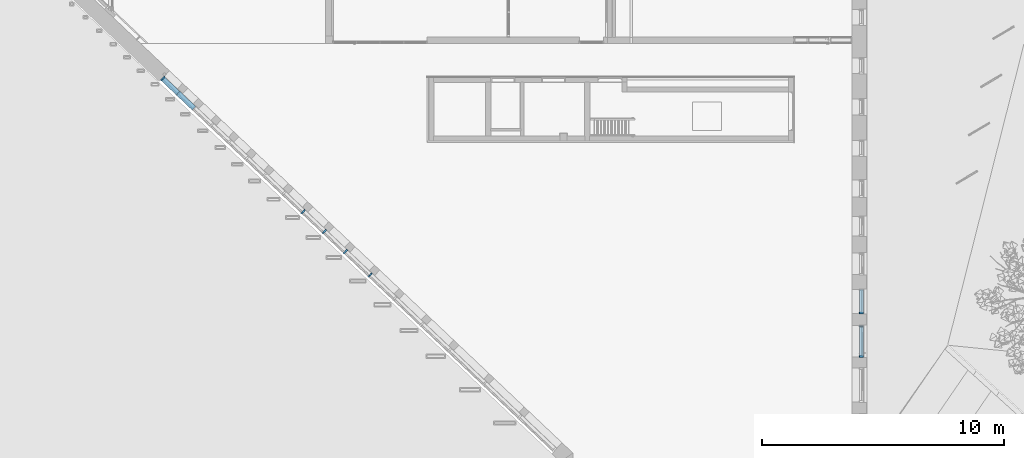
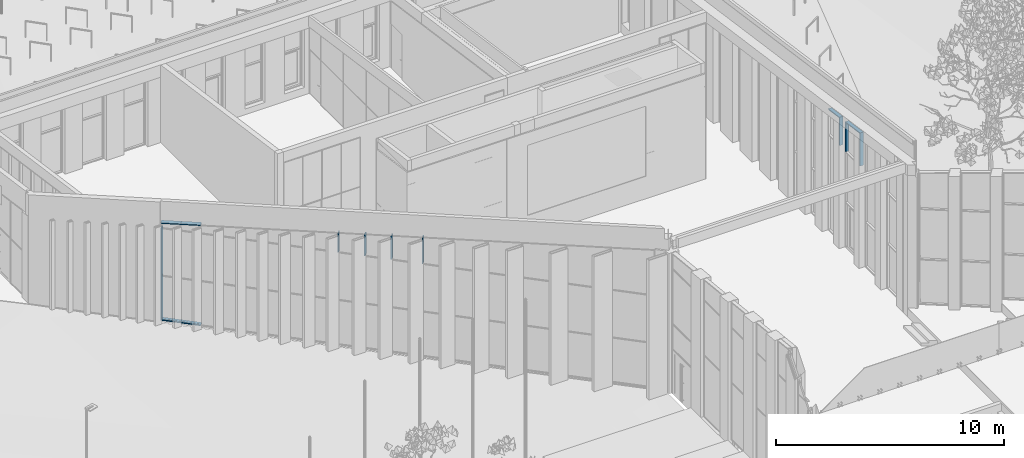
# One storey, part 64 of 246: 15 members, 3 elements without a shape of their own.
"""IFC2X3 building model written with IfcOpenShell, lengths in millimetres."""

from ifc_helpers import new_model, entity, si_unit, converted_unit, derived_unit, money_unit, direction, frame, origin_with_axes, place, context, subcontext, project, spatial, faceted_brep, material, type_object, element, aggregate, save


model = new_model("IFC2X3")

# Units and contexts
model_context = context("Model", 3, precision=0.01, world=origin_with_axes(), true_north=direction((0.0, 1.0)))
body_context = subcontext(model_context, "Body", "Model", "MODEL_VIEW")
ifc_project = project(units=[si_unit("LENGTHUNIT", "METRE", prefix="MILLI"), si_unit("AREAUNIT", "SQUARE_METRE"), si_unit("VOLUMEUNIT", "CUBIC_METRE"), converted_unit("PLANEANGLEUNIT", "DEGREE", entity("IfcPlaneAngleMeasure", 0.0174532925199), si_unit("PLANEANGLEUNIT", "RADIAN"), dimensions=[0, 0, 0, 0, 0, 0, 0]), si_unit("SOLIDANGLEUNIT", "STERADIAN"), money_unit("EUR"), converted_unit("TIMEUNIT", "Year", entity("IfcTimeMeasure", 31556926.0), si_unit("TIMEUNIT", "SECOND"), dimensions=[0, 0, 1, 0, 0, 0, 0]), si_unit("MASSUNIT", "GRAM", prefix="KILO"), si_unit("THERMODYNAMICTEMPERATUREUNIT", "DEGREE_CELSIUS"), si_unit("LUMINOUSINTENSITYUNIT", "LUMEN"), si_unit("ENERGYUNIT", "JOULE", prefix="MEGA"), derived_unit("THERMALCONDUCTANCEUNIT", [(si_unit("POWERUNIT", "WATT"), 1), (si_unit("LENGTHUNIT", "METRE"), -1), (si_unit("THERMODYNAMICTEMPERATUREUNIT", "KELVIN"), -1)]), derived_unit("SPECIFICHEATCAPACITYUNIT", [(si_unit("ENERGYUNIT", "JOULE"), 1), (si_unit("MASSUNIT", "GRAM", prefix="KILO"), -1), (si_unit("THERMODYNAMICTEMPERATUREUNIT", "KELVIN"), -1)]), derived_unit("MASSDENSITYUNIT", [(si_unit("MASSUNIT", "GRAM", prefix="KILO"), 1), (si_unit("VOLUMEUNIT", "CUBIC_METRE"), -1)])], contexts=[model_context])

# Site, building, storey
site_placement = place(None, origin_with_axes())
site = spatial("IfcSite", under=ifc_project, at=site_placement, Name="L.Koidula tn 11b", CompositionType="ELEMENT")
building_placement = place(site_placement, origin_with_axes())
building = spatial("IfcBuilding", under=site, at=building_placement, Name="Rakvere Riigigümnaasium", CompositionType="ELEMENT")
storey_placement = place(building_placement, origin_with_axes())
storey = spatial("IfcBuildingStorey", under=building, at=storey_placement, Name="1.korrus 0,00", CompositionType="ELEMENT", Elevation=0.0)

# Curtain wall, members
curtain_wall_type = type_object("IfcCurtainWallType", Name="Curtain Wall Type", PredefinedType="NOTDEFINED")
curtain_wall_1_placement = place(storey_placement, frame((47434.0004775, 49050.4555635, 0.0), z_axis=(0.0, 0.0, 1.0), x_axis=(1.0, 0.0, 0.0)))
curtain_wall_1 = element("IfcCurtainWall", 1, at=curtain_wall_1_placement, inside=storey, type_object=curtain_wall_type, Name="KLF-07-03")
ifc_material = material(Name="Alumiiniumprofiil (RAL 7021)")
member_type_1 = type_object("IfcMemberType", Name="Boundary Frame 50 x 170", PredefinedType="MULLION")
member_1_placement = place(curtain_wall_1_placement, frame((0.0, -649.999925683, 5100.0), z_axis=(0.0, 0.0, 1.0), x_axis=(0.0, 1.0, 0.0)))
member_1 = element("IfcMember", 2, at=member_1_placement, type_object=member_type_1, material=ifc_material, Name="KLF-07-73-Profiilid", ObjectType="MULLION", context=body_context, shape_type="Brep", body=[
    faceted_brep([(37.0, 26.0, 1734.39790006), (50.0, 26.0, 1719.41595005), (50.0, 124.0, 1719.41595005), (0.0, 124.0, 1777.0388347), (0.0, -46.0, 1777.0388347), (50.0, -46.0, 1719.41595005), (50.0, -26.0, 1719.41595005), (37.0, -26.0, 1734.39790006), (37.0, 26.0, -3.14933856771e-07), (50.0, 26.0, -3.14933856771e-07), (50.0, 124.0, -3.14933856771e-07), (0.0, 124.0, -3.14933856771e-07), (0.0, -46.0, -3.14933856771e-07), (50.0, -46.0, -3.14933856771e-07), (50.0, -26.0, -3.14933856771e-07), (37.0, -26.0, -3.14933856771e-07)], [[[0, 1, 2, 3, 4, 5, 6, 7]], [[0, 8, 9, 1]], [[9, 10, 2, 1]], [[10, 11, 3, 2]], [[11, 12, 4, 3]], [[12, 13, 5, 4]], [[6, 5, 13, 14]], [[14, 15, 7, 6]], [[7, 15, 8, 0]], [[8, 15, 14, 13, 12, 11, 10, 9]]]),
])
member_2_placement = place(curtain_wall_1_placement, frame((0.0, 649.999913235, 6691.9533848), z_axis=(0.0, 1.85023604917e-08, -1.0), x_axis=(0.0, -1.0, -1.85023604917e-08)))
member_2 = element("IfcMember", 3, at=member_2_placement, type_object=member_type_1, material=ifc_material, Name="KLF-07-75-Profiilid", ObjectType="MULLION", context=body_context, shape_type="Brep", body=[
    faceted_brep([(37.0000294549, 26.0, 1591.95338458), (50.0000294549, 26.0, 1591.95338434), (50.0000294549, 124.0, 1591.95338434), (2.94548954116e-05, 124.0, 1591.95338526), (2.94548954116e-05, -46.0, 1591.95338526), (50.0000294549, -46.0, 1591.95338434), (50.0000294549, -26.0, 1591.95338434), (37.0000294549, -26.0, 1591.95338458), (37.000000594, 26.0, 32.1052987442), (50.0000008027, 26.0, 43.3855388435), (50.0000008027, 124.0, 43.3855388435), (0.0, 124.0, 0.0), (0.0, -46.0, 0.0), (50.0000008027, -46.0, 43.3855388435), (50.0000008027, -26.0, 43.3855388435), (37.000000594, -26.0, 32.1052987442)], [[[0, 1, 2, 3, 4, 5, 6, 7]], [[0, 8, 9, 1]], [[9, 10, 2, 1]], [[2, 10, 11, 3]], [[3, 11, 12, 4]], [[4, 12, 13, 5]], [[6, 5, 13, 14]], [[14, 15, 7, 6]], [[7, 15, 8, 0]], [[8, 15, 14, 13, 12, 11, 10, 9]]]),
])
member_3_placement = place(curtain_wall_1_placement, frame((0.0, -649.999925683, 6877.0388347), z_axis=(0.0, 0.990016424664, -0.140952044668), x_axis=(0.0, -0.140952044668, -0.990016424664)))
member_3 = element("IfcMember", 4, at=member_3_placement, type_object=member_type_1, material=ifc_material, Name="KLF-07-74-Profiilid", ObjectType="MULLION", context=body_context, shape_type="Brep", body=[
    faceted_brep([(37.0, 26.0, 1281.00406576), (50.0, 26.0, 1269.72382542), (50.0, 124.0, 1269.72382542), (0.0, 124.0, 1313.10936519), (0.0, -46.0, 1313.10936519), (50.0, -46.0, 1269.72382542), (50.0, -26.0, 1269.72382542), (37.0, -26.0, 1281.00406576), (37.0, 26.0, 42.6409346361), (50.0, 26.0, 57.6228846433), (50.0, 124.0, 57.6228846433), (0.0, 124.0, 0.0), (0.0, -46.0, 0.0), (50.0, -46.0, 57.6228846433), (50.0, -26.0, 57.6228846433), (37.0, -26.0, 42.6409346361)], [[[0, 1, 2, 3, 4, 5, 6, 7]], [[0, 8, 9, 1]], [[9, 10, 2, 1]], [[2, 10, 11, 3]], [[3, 11, 12, 4]], [[4, 12, 13, 5]], [[6, 5, 13, 14]], [[14, 15, 7, 6]], [[7, 15, 8, 0]], [[8, 15, 14, 13, 12, 11, 10, 9]]]),
])
aggregate(curtain_wall_1, [member_1, member_2, member_3])

curtain_wall_2_placement = place(storey_placement, frame((47434.0004775, 50700.4459651, -5.70142248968e-05), z_axis=(0.0, 0.0, 1.0), x_axis=(1.0, 0.0, 0.0)))
curtain_wall_2 = element("IfcCurtainWall", 5, at=curtain_wall_2_placement, inside=storey, type_object=curtain_wall_type, Name="KLF-07-04")
member_4_placement = place(curtain_wall_2_placement, frame((0.0, -499.999990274, 5100.00005701), z_axis=(0.0, 0.0, 1.0), x_axis=(0.0, 1.0, 0.0)))
member_4 = element("IfcMember", 6, at=member_4_placement, type_object=member_type_1, material=ifc_material, Name="KLF-07-89-Profiilid", ObjectType="MULLION", context=body_context, shape_type="Brep", body=[
    faceted_brep([(37.0, 26.0, 1478.12710521), (50.0, 26.0, 1463.14515406), (50.0, 124.0, 1463.14515406), (0.0, 124.0, 1520.76804312), (0.0, -46.0, 1520.76804312), (50.0, -46.0, 1463.14515406), (50.0, -26.0, 1463.14515406), (37.0, -26.0, 1478.12710521), (37.0, 26.0, -1.15044063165e-06), (50.0, 26.0, -1.15044063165e-06), (50.0, 124.0, -1.15044063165e-06), (0.0, 124.0, -1.15044063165e-06), (0.0, -46.0, -1.15044063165e-06), (50.0, -46.0, -1.15044063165e-06), (50.0, -26.0, -1.15044063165e-06), (37.0, -26.0, -1.15044063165e-06)], [[[0, 1, 2, 3, 4, 5, 6, 7]], [[0, 8, 9, 1]], [[9, 10, 2, 1]], [[10, 11, 3, 2]], [[11, 12, 4, 3]], [[12, 13, 5, 4]], [[6, 5, 13, 14]], [[14, 15, 7, 6]], [[7, 15, 8, 0]], [[8, 15, 14, 13, 12, 11, 10, 9]]]),
])
member_5_placement = place(curtain_wall_2_placement, frame((0.0, -499.999990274, 6620.76810014), z_axis=(0.0, 0.990016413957, -0.140952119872), x_axis=(0.0, -0.140952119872, -0.990016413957)))
member_5 = element("IfcMember", 7, at=member_5_placement, type_object=member_type_1, material=ifc_material, Name="KLF-07-90-Profiilid", ObjectType="MULLION", context=body_context, shape_type="Brep", body=[
    faceted_brep([(37.0, 26.0, 977.978945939), (50.0, 26.0, 966.698706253), (50.0, 124.0, 966.698706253), (0.0, 124.0, 1010.0842435), (0.0, -46.0, 1010.0842435), (50.0, -46.0, 966.698706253), (50.0, -26.0, 966.698706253), (37.0, -26.0, 977.978945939), (37.0, 26.0, 42.6409379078), (50.0, 26.0, 57.6228890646), (50.0, 124.0, 57.6228890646), (0.0, 124.0, 0.0), (0.0, -46.0, 0.0), (50.0, -46.0, 57.6228890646), (50.0, -26.0, 57.6228890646), (37.0, -26.0, 42.6409379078)], [[[0, 1, 2, 3, 4, 5, 6, 7]], [[0, 8, 9, 1]], [[9, 10, 2, 1]], [[2, 10, 11, 3]], [[3, 11, 12, 4]], [[4, 12, 13, 5]], [[6, 5, 13, 14]], [[14, 15, 7, 6]], [[7, 15, 8, 0]], [[8, 15, 14, 13, 12, 11, 10, 9]]]),
])
aggregate(curtain_wall_2, [member_4, member_5])

curtain_wall_3_placement = place(storey_placement, frame((33997.0353268, 45217.6604975, 0.0), z_axis=(0.0, 0.0, 1.0), x_axis=(1.0, 0.0, 0.0)))
curtain_wall_3 = element("IfcCurtainWall", 8, at=curtain_wall_3_placement, inside=storey, type_object=curtain_wall_type, Name="KLF-02")
member_type_2 = type_object("IfcMemberType", Name="Mullion Frame 50 x 210", PredefinedType="MULLION")
member_6_placement = place(curtain_wall_3_placement, frame((-6896.6221772, 6533.498492, 4950.00031279), z_axis=(0.0, 0.0, 1.0), x_axis=(0.725960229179, -0.687736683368, 0.0)))
member_6 = element("IfcMember", 9, at=member_6_placement, type_object=member_type_2, material=ifc_material, Name="KLF-50-Profiilid", ObjectType="MULLION", context=body_context, shape_type="Brep", body=[
    faceted_brep([(-12.0, 26.0, 1392.65956347), (-12.0, -26.0, 1392.65956347), (-25.0, -26.0, 1391.37779045), (-25.0, -56.0, 1391.37779045), (25.0, -56.0, 1396.30768667), (25.0, -26.0, 1396.30768667), (12.0, -26.0, 1395.02591366), (12.0, 26.0, 1395.02591366), (25.0, 26.0, 1396.30768667), (25.0, 154.0, 1396.30768667), (-25.0, 154.0, 1391.37779045), (-25.0, 26.0, 1391.37779045), (-12.0, 26.0, 0.0), (-12.0, -26.0, 0.0), (-25.0, -26.0, 0.0), (-25.0, -56.0, 0.0), (25.0, -56.0, 0.0), (25.0, -26.0, 0.0), (12.0, -26.0, 0.0), (12.0, 26.0, 0.0), (25.0, 26.0, 0.0), (25.0, 154.0, 0.0), (-25.0, 154.0, 0.0), (-25.0, 26.0, 0.0)], [[[0, 1, 2, 3, 4, 5, 6, 7, 8, 9, 10, 11]], [[0, 12, 13, 1]], [[1, 13, 14, 2]], [[14, 15, 3, 2]], [[3, 15, 16, 4]], [[17, 5, 4, 16]], [[5, 17, 18, 6]], [[7, 6, 18, 19]], [[8, 7, 19, 20]], [[8, 20, 21, 9]], [[9, 21, 22, 10]], [[11, 10, 22, 23]], [[11, 23, 12, 0]], [[13, 12, 23, 22, 21, 20, 19, 18, 17, 16, 15, 14]]]),
])
member_7_placement = place(curtain_wall_3_placement, frame((-7912.96649805, 7496.32984872, 4950.00031279), z_axis=(0.0, 0.0, 1.0), x_axis=(0.725960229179, -0.687736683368, 0.0)))
member_7 = element("IfcMember", 10, at=member_7_placement, type_object=member_type_2, material=ifc_material, Name="KLF-51-Profiilid", ObjectType="MULLION", context=body_context, shape_type="Brep", body=[
    faceted_brep([(-12.0, 26.0, 1254.62246929), (-12.0, -26.0, 1254.62246929), (-25.0, -26.0, 1253.34069627), (-25.0, -56.0, 1253.34069627), (25.0, -56.0, 1258.27059249), (25.0, -26.0, 1258.27059249), (12.0, -26.0, 1256.98881948), (12.0, 26.0, 1256.98881948), (25.0, 26.0, 1258.27059249), (25.0, 154.0, 1258.27059249), (-25.0, 154.0, 1253.34069627), (-25.0, 26.0, 1253.34069627), (-12.0, 26.0, 0.0), (-12.0, -26.0, 0.0), (-25.0, -26.0, 0.0), (-25.0, -56.0, 0.0), (25.0, -56.0, 0.0), (25.0, -26.0, 0.0), (12.0, -26.0, 0.0), (12.0, 26.0, 0.0), (25.0, 26.0, 0.0), (25.0, 154.0, 0.0), (-25.0, 154.0, 0.0), (-25.0, 26.0, 0.0)], [[[0, 1, 2, 3, 4, 5, 6, 7, 8, 9, 10, 11]], [[0, 12, 13, 1]], [[1, 13, 14, 2]], [[14, 15, 3, 2]], [[3, 15, 16, 4]], [[17, 5, 4, 16]], [[5, 17, 18, 6]], [[7, 6, 18, 19]], [[8, 7, 19, 20]], [[8, 20, 21, 9]], [[9, 21, 22, 10]], [[11, 10, 22, 23]], [[11, 23, 12, 0]], [[13, 12, 23, 22, 21, 20, 19, 18, 17, 16, 15, 14]]]),
])
member_8_placement = place(curtain_wall_3_placement, frame((-8784.11877306, 8321.61386876, 4950.00031279), z_axis=(0.0, 0.0, 1.0), x_axis=(0.725960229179, -0.687736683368, 0.0)))
member_8 = element("IfcMember", 11, at=member_8_placement, type_object=member_type_2, material=ifc_material, Name="KLF-52-Profiilid", ObjectType="MULLION", context=body_context, shape_type="Brep", body=[
    faceted_brep([(-12.0, 26.0, 1136.30495999), (-12.0, -26.0, 1136.30495999), (-25.0, -26.0, 1135.02318698), (-25.0, -56.0, 1135.02318698), (25.0, -56.0, 1139.9530832), (25.0, -26.0, 1139.9530832), (12.0, -26.0, 1138.67131018), (12.0, 26.0, 1138.67131018), (25.0, 26.0, 1139.9530832), (25.0, 154.0, 1139.9530832), (-25.0, 154.0, 1135.02318698), (-25.0, 26.0, 1135.02318698), (-12.0, 26.0, 0.0), (-12.0, -26.0, 0.0), (-25.0, -26.0, 0.0), (-25.0, -56.0, 0.0), (25.0, -56.0, 0.0), (25.0, -26.0, 0.0), (12.0, -26.0, 0.0), (12.0, 26.0, 0.0), (25.0, 26.0, 0.0), (25.0, 154.0, 0.0), (-25.0, 154.0, 0.0), (-25.0, 26.0, 0.0)], [[[0, 1, 2, 3, 4, 5, 6, 7, 8, 9, 10, 11]], [[0, 12, 13, 1]], [[1, 13, 14, 2]], [[14, 15, 3, 2]], [[3, 15, 16, 4]], [[17, 5, 4, 16]], [[5, 17, 18, 6]], [[7, 6, 18, 19]], [[8, 7, 19, 20]], [[8, 20, 21, 9]], [[9, 21, 22, 10]], [[11, 10, 22, 23]], [[11, 23, 12, 0]], [[13, 12, 23, 22, 21, 20, 19, 18, 17, 16, 15, 14]]]),
])
member_9_placement = place(curtain_wall_3_placement, frame((-9655.27104808, 9146.8978888, 4950.00031279), z_axis=(0.0, 0.0, 1.0), x_axis=(0.725960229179, -0.687736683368, 0.0)))
member_9 = element("IfcMember", 12, at=member_9_placement, type_object=member_type_2, material=ifc_material, Name="KLF-53-Profiilid", ObjectType="MULLION", context=body_context, shape_type="Brep", body=[
    faceted_brep([(-12.0, 26.0, 1017.9874507), (-12.0, -26.0, 1017.9874507), (-25.0, -26.0, 1016.70567768), (-25.0, -56.0, 1016.70567768), (25.0, -56.0, 1021.6355739), (25.0, -26.0, 1021.6355739), (12.0, -26.0, 1020.35380088), (12.0, 26.0, 1020.35380088), (25.0, 26.0, 1021.6355739), (25.0, 154.0, 1021.6355739), (-25.0, 154.0, 1016.70567768), (-25.0, 26.0, 1016.70567768), (-12.0, 26.0, 0.0), (-12.0, -26.0, 0.0), (-25.0, -26.0, 0.0), (-25.0, -56.0, 0.0), (25.0, -56.0, 0.0), (25.0, -26.0, 0.0), (12.0, -26.0, 0.0), (12.0, 26.0, 0.0), (25.0, 26.0, 0.0), (25.0, 154.0, 0.0), (-25.0, 154.0, 0.0), (-25.0, 26.0, 0.0)], [[[0, 1, 2, 3, 4, 5, 6, 7, 8, 9, 10, 11]], [[0, 12, 13, 1]], [[1, 13, 14, 2]], [[14, 15, 3, 2]], [[3, 15, 16, 4]], [[17, 5, 4, 16]], [[5, 17, 18, 6]], [[7, 6, 18, 19]], [[8, 7, 19, 20]], [[8, 20, 21, 9]], [[9, 21, 22, 10]], [[11, 10, 22, 23]], [[11, 23, 12, 0]], [[13, 12, 23, 22, 21, 20, 19, 18, 17, 16, 15, 14]]]),
])
member_type_3 = type_object("IfcMemberType", Name="Boundary Frame 50 x 210", PredefinedType="MULLION")
member_10_placement = place(curtain_wall_3_placement, frame((-14809.5886752, 14029.8283407, 0.0), z_axis=(-0.725960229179, 0.687736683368, 0.0), x_axis=(0.0, 0.0, 1.0)))
member_10 = element("IfcMember", 13, at=member_10_placement, type_object=member_type_3, material=ifc_material, Name="KLF-06-Profiilid", ObjectType="MULLION", context=body_context, shape_type="Brep", body=[
    faceted_brep([(37.0, 26.0, 863.076787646), (50.0, 26.0, 850.076787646), (50.0, 154.0, 850.076787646), (0.0, 154.0, 900.076787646), (0.0, -56.0, 900.076787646), (50.0, -56.0, 850.076787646), (50.0, -26.0, 850.076787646), (37.0, -26.0, 863.076787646), (37.0, 26.0, 0.0), (50.0, 26.0, 0.0), (50.0, 154.0, 0.0), (0.0, 154.0, 0.0), (0.0, -56.0, 0.0), (50.0, -56.0, 0.0), (50.0, -26.0, 0.0), (37.0, -26.0, 0.0)], [[[0, 1, 2, 3, 4, 5, 6, 7]], [[0, 8, 9, 1]], [[9, 10, 2, 1]], [[10, 11, 3, 2]], [[11, 12, 4, 3]], [[12, 13, 5, 4]], [[6, 5, 13, 14]], [[14, 15, 7, 6]], [[7, 15, 8, 0]], [[8, 15, 14, 13, 12, 11, 10, 9]]]),
])
member_11_placement = place(curtain_wall_3_placement, frame((-14156.224469, 13410.8653257, 0.0), z_axis=(-0.725960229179, 0.687736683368, 0.0), x_axis=(0.0, 0.0, 1.0)))
member_11 = element("IfcMember", 14, at=member_11_placement, type_object=member_type_3, material=ifc_material, Name="KLF-05-Profiilid", ObjectType="MULLION", context=body_context, shape_type="Brep", body=[
    faceted_brep([(37.0, 26.0, 900.0), (50.0, 26.0, 900.0), (50.0, 154.0, 900.0), (0.0, 154.0, 900.0), (0.0, -56.0, 900.0), (50.0, -56.0, 900.0), (50.0, -26.0, 900.0), (37.0, -26.0, 900.0), (37.0, 26.0, 0.0), (50.0, 26.0, 0.0), (50.0, 154.0, 0.0), (0.0, 154.0, 0.0), (0.0, -56.0, 0.0), (50.0, -56.0, 0.0), (50.0, -26.0, 0.0), (37.0, -26.0, 0.0)], [[[0, 1, 2, 3, 4, 5, 6, 7]], [[0, 8, 9, 1]], [[9, 10, 2, 1]], [[10, 11, 3, 2]], [[11, 12, 4, 3]], [[12, 13, 5, 4]], [[6, 5, 13, 14]], [[14, 15, 7, 6]], [[7, 15, 8, 0]], [[8, 15, 14, 13, 12, 11, 10, 9]]]),
])
member_12_placement = place(curtain_wall_3_placement, frame((-15463.0086263, 14648.8441654, 0.0), z_axis=(0.0, 0.0, 1.0), x_axis=(0.725960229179, -0.687736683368, 0.0)))
member_12 = element("IfcMember", 15, at=member_12_placement, type_object=member_type_3, material=ifc_material, Name="KLF-07-Profiilid", ObjectType="MULLION", context=body_context, shape_type="Brep", body=[
    faceted_brep([(37.0, 26.0, 2400.00031279), (50.0, 26.0, 2400.00031279), (50.0, 154.0, 2400.00031279), (0.0, 154.0, 2400.00031279), (0.0, -56.0, 2400.00031279), (50.0, -56.0, 2400.00031279), (50.0, -26.0, 2400.00031279), (37.0, -26.0, 2400.00031279), (37.0, 26.0, 37.0), (50.0, 26.0, 50.0), (50.0, 154.0, 50.0), (0.0, 154.0, 0.0), (0.0, -56.0, 0.0), (50.0, -56.0, 50.0), (50.0, -26.0, 50.0), (37.0, -26.0, 37.0)], [[[0, 1, 2, 3, 4, 5, 6, 7]], [[0, 8, 9, 1]], [[9, 10, 2, 1]], [[2, 10, 11, 3]], [[3, 11, 12, 4]], [[4, 12, 13, 5]], [[6, 5, 13, 14]], [[14, 15, 7, 6]], [[7, 15, 8, 0]], [[8, 15, 14, 13, 12, 11, 10, 9]]]),
])
member_13_placement = place(curtain_wall_3_placement, frame((-15463.0086263, 14648.8441654, 2400.00031279), z_axis=(0.0, 0.0, 1.0), x_axis=(0.725960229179, -0.687736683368, 0.0)))
member_13 = element("IfcMember", 16, at=member_13_placement, type_object=member_type_3, material=ifc_material, Name="KLF-08-Profiilid", ObjectType="MULLION", context=body_context, shape_type="Brep", body=[
    faceted_brep([(37.0, 26.0, 2550.0), (50.0, 26.0, 2550.0), (50.0, 154.0, 2550.0), (0.0, 154.0, 2550.0), (0.0, -56.0, 2550.0), (50.0, -56.0, 2550.0), (50.0, -26.0, 2550.0), (37.0, -26.0, 2550.0), (37.0, 26.0, 0.0), (50.0, 26.0, 0.0), (50.0, 154.0, 0.0), (0.0, 154.0, 0.0), (0.0, -56.0, 0.0), (50.0, -56.0, 0.0), (50.0, -26.0, 0.0), (37.0, -26.0, 0.0)], [[[0, 1, 2, 3, 4, 5, 6, 7]], [[0, 8, 9, 1]], [[9, 10, 2, 1]], [[10, 11, 3, 2]], [[11, 12, 4, 3]], [[12, 13, 5, 4]], [[6, 5, 13, 14]], [[14, 15, 7, 6]], [[7, 15, 8, 0]], [[8, 15, 14, 13, 12, 11, 10, 9]]]),
])
member_14_placement = place(curtain_wall_3_placement, frame((-14809.5886752, 14029.8283407, 5319.36812618), z_axis=(0.722457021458, -0.68441792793, 0.0981221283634), x_axis=(0.0712327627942, -0.0674821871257, -0.995174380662)))
member_14 = element("IfcMember", 17, at=member_14_placement, type_object=member_type_3, material=ifc_material, Name="KLF-11-Profiilid", ObjectType="MULLION", context=body_context, shape_type="Brep", body=[
    faceted_brep([(37.0, 26.0, 904.364116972), (50.0, 26.0, 904.364116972), (50.0, 154.0, 904.364116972), (0.0, 154.0, 904.364116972), (0.0, -56.0, 904.364116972), (50.0, -56.0, 904.364116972), (50.0, -26.0, 904.364116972), (37.0, -26.0, 904.364116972), (37.0, 26.0, 0.0), (50.0, 26.0, 0.0), (50.0, 154.0, 0.0), (0.0, 154.0, 0.0), (0.0, -56.0, 0.0), (50.0, -56.0, 0.0), (50.0, -26.0, 0.0), (37.0, -26.0, 0.0)], [[[0, 1, 2, 3, 4, 5, 6, 7]], [[0, 8, 9, 1]], [[9, 10, 2, 1]], [[10, 11, 3, 2]], [[11, 12, 4, 3]], [[12, 13, 5, 4]], [[6, 5, 13, 14]], [[14, 15, 7, 6]], [[7, 15, 8, 0]], [[8, 15, 14, 13, 12, 11, 10, 9]]]),
])
member_15_placement = place(curtain_wall_3_placement, frame((-15463.0086263, 14648.8441654, 5230.6224231), z_axis=(0.722457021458, -0.68441792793, 0.0981221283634), x_axis=(0.0712327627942, -0.0674821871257, -0.995174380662)))
member_15 = element("IfcMember", 18, at=member_15_placement, type_object=member_type_3, material=ifc_material, Name="KLF-10-Profiilid", ObjectType="MULLION", context=body_context, shape_type="Brep", body=[
    faceted_brep([(37.0, 26.0, 904.441276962), (50.0, 26.0, 904.441276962), (50.0, 154.0, 904.441276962), (0.0, 154.0, 904.441276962), (0.0, -56.0, 904.441276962), (50.0, -56.0, 904.441276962), (50.0, -26.0, 904.441276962), (37.0, -26.0, 904.441276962), (37.0, 26.0, 33.5312904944), (50.0, 26.0, 45.3125547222), (50.0, 154.0, 45.3125547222), (0.0, 154.0, 0.0), (0.0, -56.0, 0.0), (50.0, -56.0, 45.3125547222), (50.0, -26.0, 45.3125547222), (37.0, -26.0, 33.5312904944)], [[[0, 1, 2, 3, 4, 5, 6, 7]], [[0, 8, 9, 1]], [[9, 10, 2, 1]], [[2, 10, 11, 3]], [[3, 11, 12, 4]], [[4, 12, 13, 5]], [[6, 5, 13, 14]], [[14, 15, 7, 6]], [[7, 15, 8, 0]], [[8, 15, 14, 13, 12, 11, 10, 9]]]),
])
aggregate(curtain_wall_3, [member_10, member_11, member_12, member_13, member_6, member_7, member_8, member_9, member_14, member_15])

save(model, "model.ifc")
